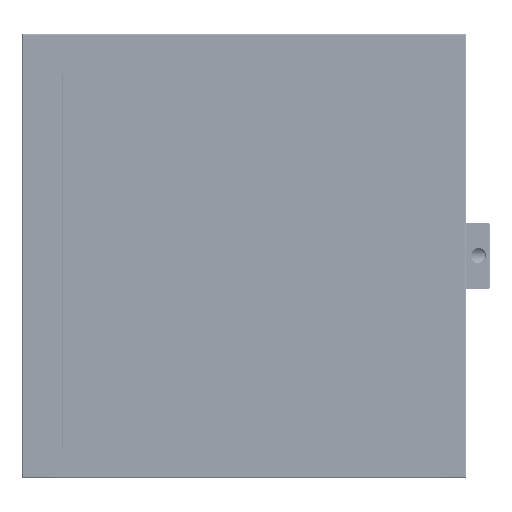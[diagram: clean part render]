
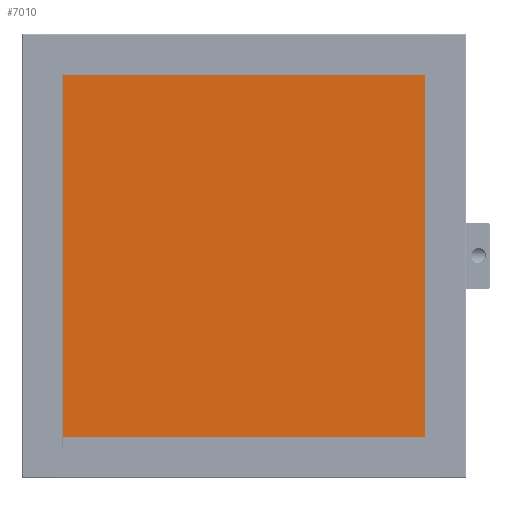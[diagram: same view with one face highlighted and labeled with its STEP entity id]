
A CAD part, front view. The second image highlights one B-rep face of the part: STEP entity #7010.
In plain terms, the highlighted planar face has unit normal (0, -1, 0).
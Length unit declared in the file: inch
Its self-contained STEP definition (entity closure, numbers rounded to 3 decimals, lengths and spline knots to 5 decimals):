
#1088 = LINE ( 'NONE', #23718, #20688 ) ;
#1602 = VECTOR ( 'NONE', #1626, 39.37008 ) ;
#1626 = DIRECTION ( 'NONE',  ( 0., 0., 1. ) ) ;
#3778 = VECTOR ( 'NONE', #22092, 39.37008 ) ;
#4836 = EDGE_LOOP ( 'NONE', ( #20585, #20238, #12330, #21589 ) ) ;
#5101 = CARTESIAN_POINT ( 'NONE',  ( 0.095, 0., -0.095 ) ) ;
#6169 = EDGE_CURVE ( 'NONE', #17788, #12551, #1088, .T. ) ;
#7010 = ADVANCED_FACE ( 'NONE', ( #18717 ), #20092, .T. ) ;
#8797 = DIRECTION ( 'NONE',  ( 0., 0., -1. ) ) ;
#9094 = CARTESIAN_POINT ( 'NONE',  ( 4.239, 0., -4.239 ) ) ;
#9429 = DIRECTION ( 'NONE',  ( 1., 0., 0. ) ) ;
#9513 = VECTOR ( 'NONE', #9429, 39.37008 ) ;
#10624 = CARTESIAN_POINT ( 'NONE',  ( 0., 0., -4.334 ) ) ;
#10787 = VERTEX_POINT ( 'NONE', #14435 ) ;
#11088 = VERTEX_POINT ( 'NONE', #13096 ) ;
#11697 = AXIS2_PLACEMENT_3D ( 'NONE', #10624, #23926, #8797 ) ;
#12330 = ORIENTED_EDGE ( 'NONE', *, *, #23779, .T. ) ;
#12551 = VERTEX_POINT ( 'NONE', #5101 ) ;
#13096 = CARTESIAN_POINT ( 'NONE',  ( 4.239, 0., -4.239 ) ) ;
#14317 = DIRECTION ( 'NONE',  ( -1., 0., 0. ) ) ;
#14435 = CARTESIAN_POINT ( 'NONE',  ( 0.095, 0., -4.239 ) ) ;
#14759 = LINE ( 'NONE', #24113, #3778 ) ;
#17170 = EDGE_CURVE ( 'NONE', #10787, #11088, #19614, .T. ) ;
#17788 = VERTEX_POINT ( 'NONE', #24212 ) ;
#18717 = FACE_OUTER_BOUND ( 'NONE', #4836, .T. ) ;
#19158 = LINE ( 'NONE', #9094, #1602 ) ;
#19614 = LINE ( 'NONE', #24659, #9513 ) ;
#20092 = PLANE ( 'NONE',  #11697 ) ;
#20238 = ORIENTED_EDGE ( 'NONE', *, *, #6169, .T. ) ;
#20454 = EDGE_CURVE ( 'NONE', #11088, #17788, #19158, .T. ) ;
#20585 = ORIENTED_EDGE ( 'NONE', *, *, #20454, .T. ) ;
#20688 = VECTOR ( 'NONE', #14317, 39.37008 ) ;
#21589 = ORIENTED_EDGE ( 'NONE', *, *, #17170, .T. ) ;
#22092 = DIRECTION ( 'NONE',  ( 0., 0., -1. ) ) ;
#23718 = CARTESIAN_POINT ( 'NONE',  ( 4.239, 0., -0.095 ) ) ;
#23779 = EDGE_CURVE ( 'NONE', #12551, #10787, #14759, .T. ) ;
#23926 = DIRECTION ( 'NONE',  ( 0., -1., 0. ) ) ;
#24113 = CARTESIAN_POINT ( 'NONE',  ( 0.095, 0., -0.095 ) ) ;
#24212 = CARTESIAN_POINT ( 'NONE',  ( 4.239, 0., -0.095 ) ) ;
#24659 = CARTESIAN_POINT ( 'NONE',  ( 0.095, 0., -4.239 ) ) ;
